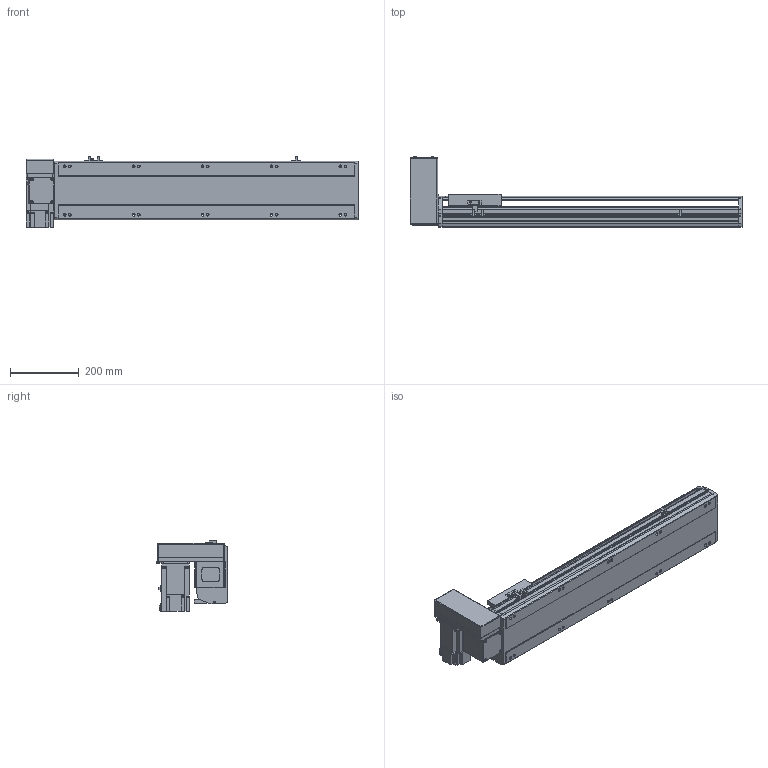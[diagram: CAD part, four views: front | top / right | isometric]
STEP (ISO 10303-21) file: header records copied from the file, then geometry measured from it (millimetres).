
FILE_DESCRIPTION( ( 'STEP AP214' ), '1' );
FILE_NAME( 'x:/temp/worker_5/temp/exporttempdir_3988_112_2ETJk/format_0/PBS170-P40-S600-RU-T75-C1-N(0).stp', '2022-06-08T05:56:06', ( 'License CC BY-ND 4.0' ), ( 'CADENAS' ), ' ', 'PARTsolutions', ' ' );
FILE_SCHEMA( ( 'AUTOMOTIVE_DESIGN { 1 0 10303 214 1 1 1 1 }' ) );
Length unit declared in the file: millimetre
Products named in the file (7): PBS170-P40-S600-RU-T75-C1-N(0); _PBS170-S600()_body; _PBS170T-RU_motors; _T75-p1; _PBS170_sliser; _PBS170_plant; _PBS170_sensor
Assembly tree (8 placements, depth 2):
  PBS170-P40-S600-RU-T75-C1-N(0)
    _PBS170-S600()_body
    _PBS170T-RU_motors
    _T75-p1
    _PBS170_sliser
    _PBS170_plant
    _PBS170_sensor  x3
Bounding box: 963 x 206 x 205.3 mm (x, y, z)
Volume: 8142545.9 mm3; surface area: 1095428.3 mm2
Topology: 8 solids, 8 shells, 1034 faces, 2755 edges, 1796 vertices
Faces by surface type: plane 669, cylinder 315, cone 40, sphere 8, torus 2
Full cylindrical faces by diameter (mm): 3.242 x4, 4 x2, 4.4 x4, 4.5 x6, 4.917 x4, 6 x9, 6.647 x18, 7 x2, 7.5 x4, 8 x8, 8.5 x10, 10 x4, 10.5 x10, 11 x2, 30 x2, 40 x1, 70 x1
Entity records: 37814 total; most frequent: CARTESIAN_POINT 5717, DIRECTION 5090, ORIENTED_EDGE 4848, EDGE_CURVE 2424, AXIS2_PLACEMENT_3D 1747, VERTEX_POINT 1658, LINE 1596, VECTOR 1596
